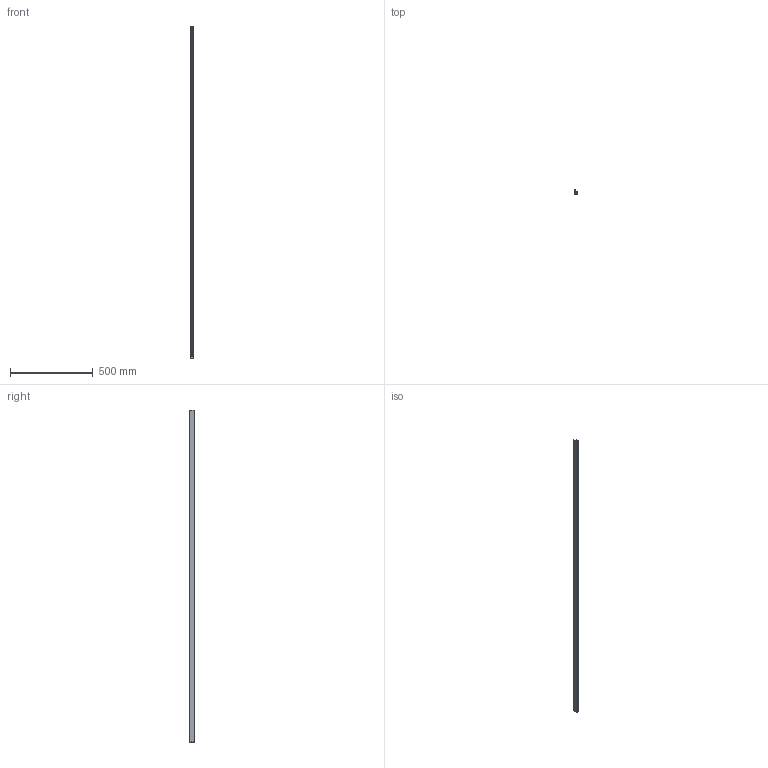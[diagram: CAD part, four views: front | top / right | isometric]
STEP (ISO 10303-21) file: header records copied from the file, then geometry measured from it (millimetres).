
FILE_DESCRIPTION (( 'STEP AP203' ), '1' );
FILE_NAME ('M03HW.STEP', '2018-06-19T14:26:37', ( 'Michael Moliner' ), ( '' ), 'SwSTEP 2.0', 'SolidWorks 2018', '' );
FILE_SCHEMA (( 'CONFIG_CONTROL_DESIGN' ));
Length unit declared in the file: inch
Products named in the file (2): M03HW
Bounding box: 12.06 x 28.37 x 2000 mm (x, y, z)
Volume: 59123.4 mm3; surface area: 234860.4 mm2
Topology: 1 solids, 1 shells, 18 faces, 48 edges, 32 vertices
Faces by surface type: plane 12, cylinder 6
Entity records: 721 total; most frequent: CARTESIAN_POINT 100, DIRECTION 100, ORIENTED_EDGE 96, EDGE_CURVE 48, VECTOR 36, LINE 36, AXIS2_PLACEMENT_3D 32, VERTEX_POINT 32
